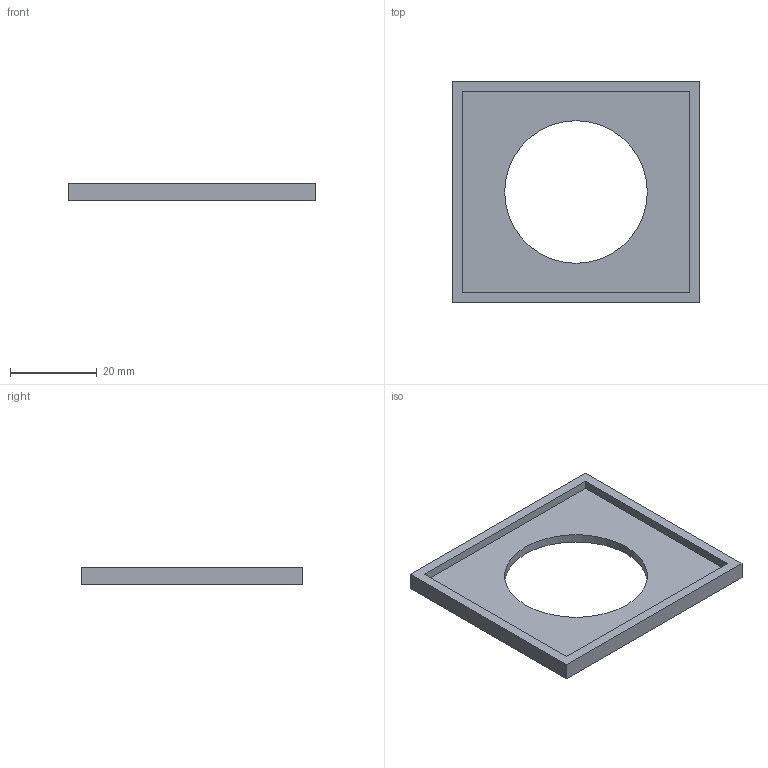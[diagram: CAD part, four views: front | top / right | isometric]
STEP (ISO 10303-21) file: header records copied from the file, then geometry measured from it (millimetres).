
FILE_DESCRIPTION(('FreeCAD Model'),'2;1');
FILE_NAME('Open CASCADE Shape Model','2026-11-20T08:25:39',('FreeCAD'),( 'FreeCAD'),'Open CASCADE STEP processor 7.8','FreeCAD','Unknown');
FILE_SCHEMA(('AUTOMOTIVE_DESIGN { 1 0 10303 214 1 1 1 1 }'));
Length unit declared in the file: millimetre
Products named in the file (1): Open CASCADE STEP translator 7.8 93
Bounding box: 57 x 51 x 4 mm (x, y, z)
Volume: 5075.4 mm3; surface area: 5589.4 mm2
Topology: 1 solids, 1 shells, 12 faces, 27 edges, 18 vertices
Faces by surface type: plane 11, cylinder 1
Full cylindrical faces by diameter (mm): 32.8 x1
Entity records: 347 total; most frequent: CARTESIAN_POINT 58, DIRECTION 55, ORIENTED_EDGE 54, EDGE_CURVE 27, LINE 25, VECTOR 25, VERTEX_POINT 18, AXIS2_PLACEMENT_3D 15
